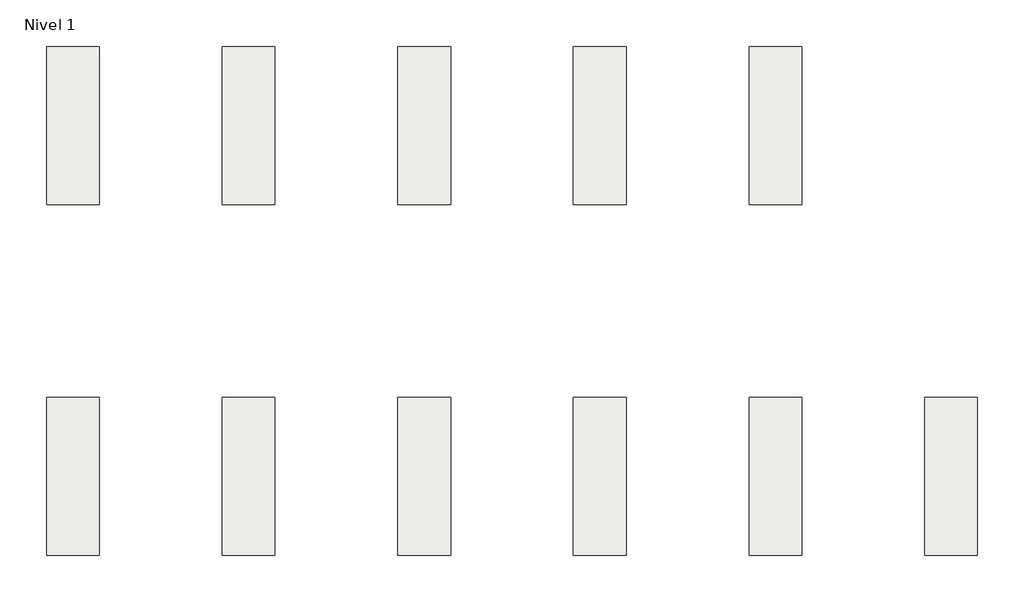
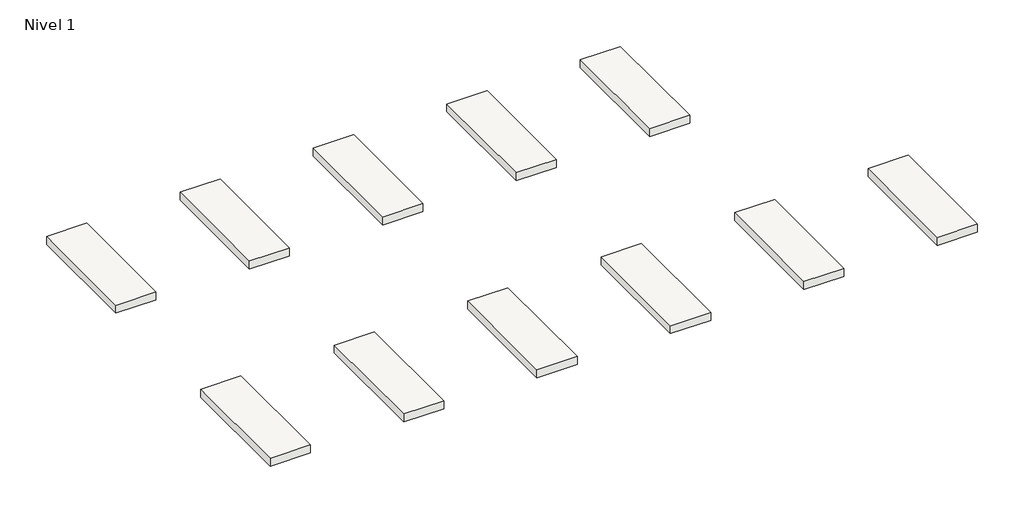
# One storey: 11 slabs.
"""IFC4 building model written with IfcOpenShell, lengths in millimetres."""

from ifc_helpers import new_model, si_unit, frame, origin, place, context, project, spatial, polyline, outline, extrude, element, save

model = new_model("IFC4")

# Units and contexts
model_context = context("Model", 3, world=origin())
ifc_project = project(units=[si_unit("LENGTHUNIT", "METRE", prefix="MILLI")], contexts=[model_context])

# Site, building, storey
site = spatial("IfcSite", under=ifc_project)
building = spatial("IfcBuilding", under=site)
storey = spatial("IfcBuildingStorey", under=building, Name="Nivel 1", Elevation=0.0)

# Slabs
placement = place(None, origin())
element("IfcSlab", 1, ObjectType="Dakota Blanco 30X90", at=placement, inside=storey, context=model_context, shape_type="SweptSolid", body=[
    extrude(outline(polyline([(0.0, 900.0), (300.0, 900.0), (300.0, 0.0), (0.0, 0.0), (0.0, 900.0)])), frame((0.0, 0.0, -63.0), z_axis=(0.0, 0.0, 1.0), x_axis=(1.0, 0.0, 0.0)), (0.0, 0.0, 1.0), 63.0),
])
element("IfcSlab", 2, ObjectType="Dakota Greige 30X90", at=placement, inside=storey, context=model_context, shape_type="SweptSolid", body=[
    extrude(outline(polyline([(1000.0, 900.0), (1300.0, 900.0), (1300.0, 0.0), (1000.0, 0.0), (1000.0, 900.0)])), frame((0.0, 0.0, -63.0), z_axis=(0.0, 0.0, 1.0), x_axis=(1.0, 0.0, 0.0)), (0.0, 0.0, 1.0), 63.0),
])
element("IfcSlab", 3, ObjectType="Dakota Perla 30X90", at=placement, inside=storey, context=model_context, shape_type="SweptSolid", body=[
    extrude(outline(polyline([(2000.0, 900.0), (2300.0, 900.0), (2300.0, 0.0), (2000.0, 0.0), (2000.0, 900.0)])), frame((0.0, 0.0, -63.0), z_axis=(0.0, 0.0, 1.0), x_axis=(1.0, 0.0, 0.0)), (0.0, 0.0, 1.0), 63.0),
])
element("IfcSlab", 4, ObjectType="Hudson Blanco 30X90", at=placement, inside=storey, context=model_context, shape_type="SweptSolid", body=[
    extrude(outline(polyline([(3000.0, 900.0), (3300.0, 900.0), (3300.0, 0.0), (3000.0, 0.0), (3000.0, 900.0)])), frame((0.0, 0.0, -63.0), z_axis=(0.0, 0.0, 1.0), x_axis=(1.0, 0.0, 0.0)), (0.0, 0.0, 1.0), 63.0),
])
element("IfcSlab", 5, ObjectType="Hudson Greige 30X90", at=placement, inside=storey, context=model_context, shape_type="SweptSolid", body=[
    extrude(outline(polyline([(4000.0, 900.0), (4300.0, 900.0), (4300.0, 0.0), (4000.0, 0.0), (4000.0, 900.0)])), frame((0.0, 0.0, -63.0), z_axis=(0.0, 0.0, 1.0), x_axis=(1.0, 0.0, 0.0)), (0.0, 0.0, 1.0), 63.0),
])
element("IfcSlab", 6, ObjectType="Hudson Perla 30X90", at=placement, inside=storey, context=model_context, shape_type="SweptSolid", body=[
    extrude(outline(polyline([(0.0, -1100.0), (300.0, -1100.0), (300.0, -2000.0), (0.0, -2000.0), (0.0, -1100.0)])), frame((0.0, 0.0, -63.0), z_axis=(0.0, 0.0, 1.0), x_axis=(1.0, 0.0, 0.0)), (0.0, 0.0, 1.0), 63.0),
])
element("IfcSlab", 7, ObjectType="Metropolitan Blanco 30X90", at=placement, inside=storey, context=model_context, shape_type="SweptSolid", body=[
    extrude(outline(polyline([(1000.0, -1100.0), (1300.0, -1100.0), (1300.0, -2000.0), (1000.0, -2000.0), (1000.0, -1100.0)])), frame((0.0, 0.0, -63.0), z_axis=(0.0, 0.0, 1.0), x_axis=(1.0, 0.0, 0.0)), (0.0, 0.0, 1.0), 63.0),
])
element("IfcSlab", 8, ObjectType="Metropolitan Greige 30X90", at=placement, inside=storey, context=model_context, shape_type="SweptSolid", body=[
    extrude(outline(polyline([(2000.0, -1100.0), (2300.0, -1100.0), (2300.0, -2000.0), (2000.0, -2000.0), (2000.0, -1100.0)])), frame((0.0, 0.0, -63.0), z_axis=(0.0, 0.0, 1.0), x_axis=(1.0, 0.0, 0.0)), (0.0, 0.0, 1.0), 63.0),
])
element("IfcSlab", 9, ObjectType="Metropolitan Perla 30X90", at=placement, inside=storey, context=model_context, shape_type="SweptSolid", body=[
    extrude(outline(polyline([(3000.0, -1100.0), (3300.0, -1100.0), (3300.0, -2000.0), (3000.0, -2000.0), (3000.0, -1100.0)])), frame((0.0, 0.0, -63.0), z_axis=(0.0, 0.0, 1.0), x_axis=(1.0, 0.0, 0.0)), (0.0, 0.0, 1.0), 63.0),
])
element("IfcSlab", 10, ObjectType="Row 30X90", at=placement, inside=storey, context=model_context, shape_type="SweptSolid", body=[
    extrude(outline(polyline([(4000.0, -1100.0), (4300.0, -1100.0), (4300.0, -2000.0), (4000.0, -2000.0), (4000.0, -1100.0)])), frame((0.0, 0.0, -63.0), z_axis=(0.0, 0.0, 1.0), x_axis=(1.0, 0.0, 0.0)), (0.0, 0.0, 1.0), 63.0),
])
element("IfcSlab", 11, ObjectType="Shed 30X90", at=placement, inside=storey, context=model_context, shape_type="SweptSolid", body=[
    extrude(outline(polyline([(5000.0, -1100.0), (5300.0, -1100.0), (5300.0, -2000.0), (5000.0, -2000.0), (5000.0, -1100.0)])), frame((0.0, 0.0, -63.0), z_axis=(0.0, 0.0, 1.0), x_axis=(1.0, 0.0, 0.0)), (0.0, 0.0, 1.0), 63.0),
])

save(model, "model.ifc")
